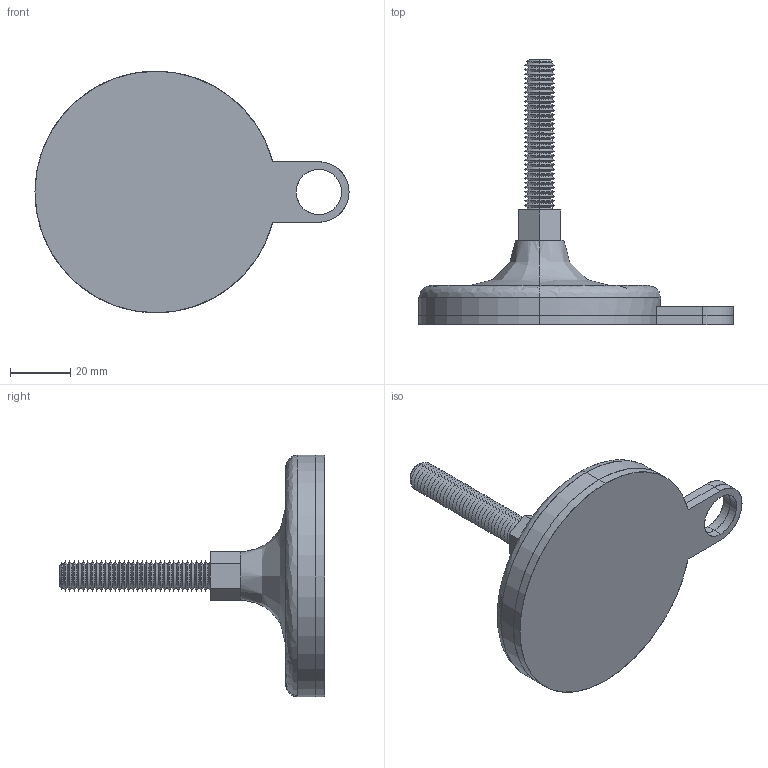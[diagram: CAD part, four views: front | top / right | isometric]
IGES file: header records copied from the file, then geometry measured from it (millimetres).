
Start section: SolidWorks IGES file using analytic representation for surfaces
Global section: file name: C:\Users\liam_\OneDrive\Documents\WORK\Work for WixRoyd\Job Files\J-00026 - Matt Davis CAD - 20191124\04. CAD Drawings\Wixroyd20191124\34704_v2\34704_v2_20191128_IGES\34704.W1000.igs; native system: SolidWorks 2017; preprocessor: SolidWorks 2017; author: liam_; date: 191128.202242; units: millimetre
Bounding box: 104 x 88 x 80 mm (x, y, z)
Surface area: 28233.6 mm2 (no closed solid volume)
Topology: 0 solids, 0 shells, 178 faces, 1332 edges, 1332 vertices
Faces by surface type: revolution 145, bspline 33
